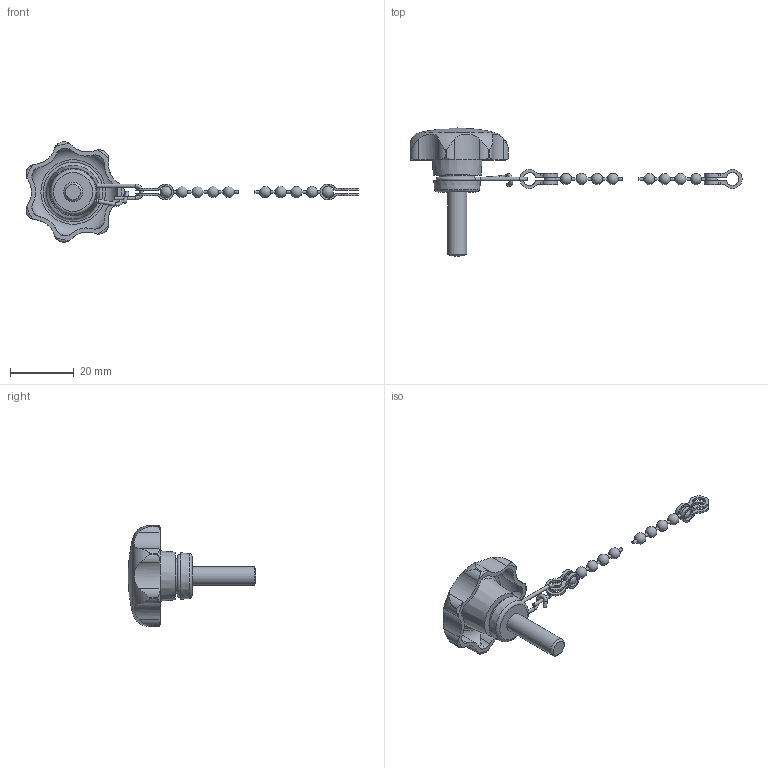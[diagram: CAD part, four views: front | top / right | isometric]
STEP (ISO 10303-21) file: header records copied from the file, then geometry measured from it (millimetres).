
FILE_DESCRIPTION( ( 'STEP AP203' ), '1' );
FILE_NAME( 'C:/Temp/Ganter_Step_05_03_2020/data/2_2/gn_6336_13/gn_6336_13_2/Star knob GN 6336.13-32-M6-20-K.stp', '2020-03-05T12:12:11', ( 'License CC BY-ND 4.0' ), ( 'CADENAS' ), ' ', 'PARTsolutions', ' ' );
FILE_SCHEMA( ( 'CONFIG_CONTROL_DESIGN' ) );
Length unit declared in the file: millimetre
Products named in the file (3): Star knob GN 6336.13-32-M6-20-K; _Star knob GN 6336.13-32-M6-20-K 6; _Star knob GN 111.5-200-14 k2
Assembly tree (2 placements, depth 2):
  Star knob GN 6336.13-32-M6-20-K
    _Star knob GN 6336.13-32-M6-20-K 6
    _Star knob GN 111.5-200-14 k2
Bounding box: 103.76 x 40 x 31.36 mm (x, y, z)
Volume: 6577.6 mm3; surface area: 4715.5 mm2
Topology: 2 solids, 2 shells, 169 faces, 489 edges, 316 vertices
Faces by surface type: cylinder 103, plane 26, torus 18, sphere 11, cone 11
Full cylindrical faces by diameter (mm): 0.9 x10, 1.1 x4, 1.11 x1, 6 x1, 10.9 x1
Entity records: 6303 total; most frequent: CARTESIAN_POINT 2059, DIRECTION 865, ORIENTED_EDGE 846, EDGE_CURVE 423, AXIS2_PLACEMENT_3D 373, VERTEX_POINT 301, EDGE_LOOP 219, FACE_OUTER_BOUND 204
